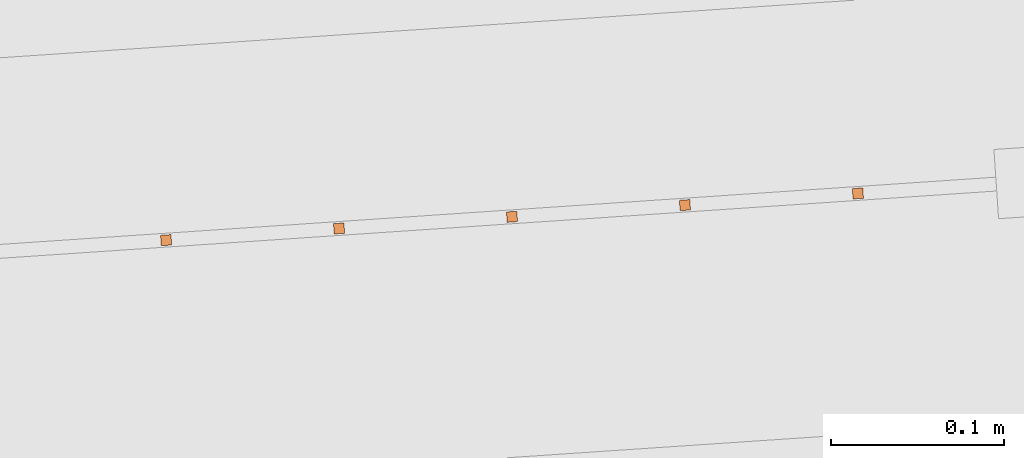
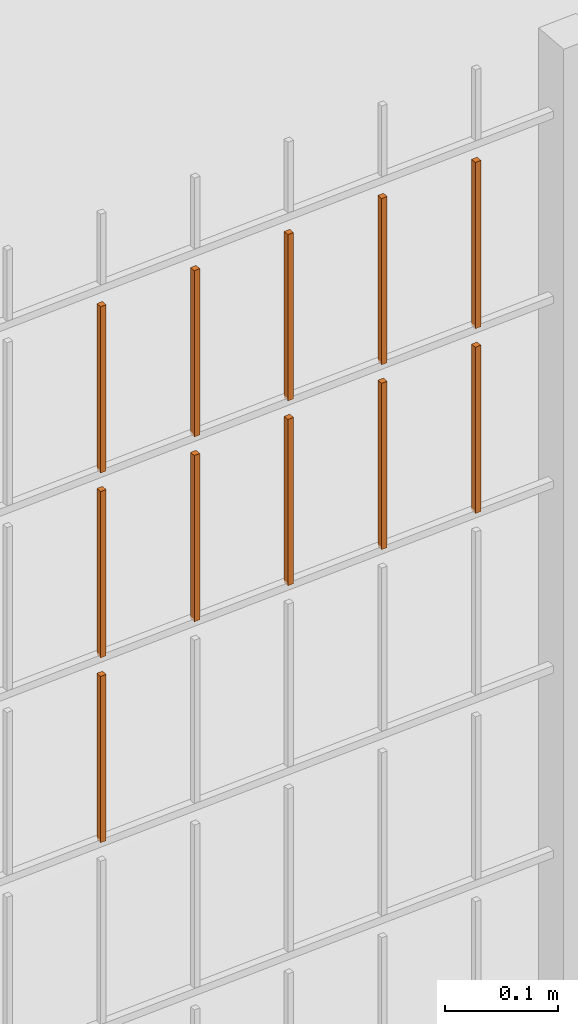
# One storey, part 189 of 1809: 11 proxies, 1 element without a shape of its own.
"""IFC2X3 building model written with IfcOpenShell, lengths in millimetres."""

from ifc_helpers import new_model, entity, si_unit, converted_unit, derived_unit, money_unit, direction, frame, origin_with_axes, place, context, subcontext, project, spatial, faceted_brep, source, transform, mapped, material, type_object, element, aggregate, save


model = new_model("IFC2X3")

# Units and contexts
model_context = context("Model", 3, precision=0.01, world=origin_with_axes(), true_north=direction((0.0, 1.0)))
body_context = subcontext(model_context, "Body", "Model", "MODEL_VIEW")
ifc_project = project(units=[si_unit("LENGTHUNIT", "METRE", prefix="MILLI"), si_unit("AREAUNIT", "SQUARE_METRE"), si_unit("VOLUMEUNIT", "CUBIC_METRE"), converted_unit("PLANEANGLEUNIT", "DEGREE", entity("IfcPlaneAngleMeasure", 0.0174532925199), si_unit("PLANEANGLEUNIT", "RADIAN"), dimensions=[0, 0, 0, 0, 0, 0, 0]), si_unit("SOLIDANGLEUNIT", "STERADIAN"), money_unit("EUR"), converted_unit("TIMEUNIT", "Year", entity("IfcTimeMeasure", 31556926.0), si_unit("TIMEUNIT", "SECOND"), dimensions=[0, 0, 1, 0, 0, 0, 0]), si_unit("MASSUNIT", "GRAM", prefix="KILO"), si_unit("THERMODYNAMICTEMPERATUREUNIT", "DEGREE_CELSIUS"), si_unit("LUMINOUSINTENSITYUNIT", "LUMEN"), si_unit("ENERGYUNIT", "JOULE", prefix="MEGA"), derived_unit("THERMALCONDUCTANCEUNIT", [(si_unit("POWERUNIT", "WATT"), 1), (si_unit("LENGTHUNIT", "METRE"), -1), (si_unit("THERMODYNAMICTEMPERATUREUNIT", "KELVIN"), -1)]), derived_unit("SPECIFICHEATCAPACITYUNIT", [(si_unit("ENERGYUNIT", "JOULE"), 1), (si_unit("MASSUNIT", "GRAM", prefix="KILO"), -1), (si_unit("THERMODYNAMICTEMPERATUREUNIT", "KELVIN"), -1)]), derived_unit("MASSDENSITYUNIT", [(si_unit("MASSUNIT", "GRAM", prefix="KILO"), 1), (si_unit("VOLUMEUNIT", "CUBIC_METRE"), -1)])], contexts=[model_context])

# Site, building, storey
site_placement = place(None, origin_with_axes())
site = spatial("IfcSite", under=ifc_project, at=site_placement, Name="Politse- ja Piirivalveameti ning Päästeameti ühishoone", CompositionType="ELEMENT")
building_placement = place(site_placement, origin_with_axes())
building = spatial("IfcBuilding", under=site, at=building_placement, Name="Politse- ja Piirivalveameti ning Päästeameti ühishoone", CompositionType="ELEMENT")
storey_placement = place(building_placement, origin_with_axes())
storey = spatial("IfcBuildingStorey", under=building, at=storey_placement, Name="Esimene korrus", CompositionType="ELEMENT", Elevation=0.0)

# Proxies
building_element_proxy_type_1 = type_object("IfcBuildingElementProxyType", Name="Railing Type", PredefinedType="NOTDEFINED")
proxy_1_placement = place(storey_placement, frame((89252.001212, -29183.4766571, 203.661247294), z_axis=(0.0, 0.0, 1.0), x_axis=(1.0, 0.0, 0.0)))
proxy_1 = element("IfcBuildingElementProxy", 1, at=proxy_1_placement, inside=storey, type_object=building_element_proxy_type_1, Name="PIIRDEAED")
ifc_material = material(Name="ET-03_Raud")
building_element_proxy_type_2 = type_object("IfcBuildingElementProxyType", Name="IfcBuildingElementProxy", PredefinedType="NOTDEFINED")
shared_shape_1 = source(origin_with_axes(), body_context, "Body", "Brep", [
    faceted_brep([(3.0, 3.0, -0.000752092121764), (-3.0, 3.0, -0.000752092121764), (-3.0, 3.0, 179.99926046), (3.0, 3.0, 179.99926046), (3.0, -3.0, 0.000752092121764), (-3.0, -3.0, 0.000752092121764), (-3.0, -3.0, 180.000764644), (3.0, -3.0, 180.000764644)], [[[0, 1, 2, 3]], [[0, 4, 5, 1]], [[1, 5, 6, 2]], [[3, 2, 6, 7]], [[4, 0, 3, 7]], [[5, 4, 7, 6]]]),
])
proxy_2_placement = place(proxy_1_placement, frame((-70067.0297175, -22030.5381956, 1809.62873926), z_axis=(0.0, 0.0, 1.0), x_axis=(1.0, 0.0, 0.0)))
proxy_2 = element("IfcBuildingElementProxy", 2, at=proxy_2_placement, type_object=building_element_proxy_type_2, material=ifc_material, Name="BALUSTER - 001", context=body_context, shape_type="MappedRepresentation", body=[
    mapped(shared_shape_1, transform((0.0, 0.0, 0.0), x_axis=(-0.0673926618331, 0.997726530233, 0.0), y_axis=(-0.997726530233, -0.0673926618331, 0.0), z_axis=(0.0, 0.0, 1.0))),
])
shared_shape_2 = source(origin_with_axes(), body_context, "Body", "Brep", [
    faceted_brep([(3.0, 3.0, -0.000752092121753), (-3.0, 3.0, -0.000752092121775), (-3.0, 3.0, 179.99926046), (3.0, 3.0, 179.99926046), (3.0, -3.0, 0.000752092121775), (-3.0, -3.0, 0.000752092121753), (-3.0, -3.0, 180.000764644), (3.0, -3.0, 180.000764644)], [[[0, 1, 2, 3]], [[0, 4, 5, 1]], [[1, 5, 6, 2]], [[3, 2, 6, 7]], [[4, 0, 3, 7]], [[5, 4, 7, 6]]]),
])
proxy_3_placement = place(proxy_1_placement, frame((-69767.7117585, -22010.320397, 1809.70394847), z_axis=(0.0, 0.0, 1.0), x_axis=(1.0, 0.0, 0.0)))
proxy_3 = element("IfcBuildingElementProxy", 3, at=proxy_3_placement, type_object=building_element_proxy_type_2, material=ifc_material, Name="BALUSTER - 001", context=body_context, shape_type="MappedRepresentation", body=[
    mapped(shared_shape_2, transform((0.0, 0.0, 0.0), x_axis=(-0.0673926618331, 0.997726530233, 0.0), y_axis=(-0.997726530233, -0.0673926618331, 0.0), z_axis=(0.0, 0.0, 1.0))),
])
shared_shape_3 = source(origin_with_axes(), body_context, "Body", "Brep", [
    faceted_brep([(3.0, 3.0, -0.000752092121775), (-3.0, 3.0, -0.000752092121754), (-3.0, 3.0, 179.99926046), (3.0, 3.0, 179.99926046), (3.0, -3.0, 0.000752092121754), (-3.0, -3.0, 0.000752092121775), (-3.0, -3.0, 180.000764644), (3.0, -3.0, 180.000764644)], [[[0, 1, 2, 3]], [[0, 4, 5, 1]], [[1, 5, 6, 2]], [[3, 2, 6, 7]], [[4, 0, 3, 7]], [[5, 4, 7, 6]]]),
])
proxy_4_placement = place(proxy_1_placement, frame((-70166.8023706, -22037.2774618, 1809.60366952), z_axis=(0.0, 0.0, 1.0), x_axis=(1.0, 0.0, 0.0)))
proxy_4 = element("IfcBuildingElementProxy", 4, at=proxy_4_placement, type_object=building_element_proxy_type_2, material=ifc_material, Name="BALUSTER - 001", context=body_context, shape_type="MappedRepresentation", body=[
    mapped(shared_shape_3, transform((0.0, 0.0, 0.0), x_axis=(-0.0673926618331, 0.997726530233, 0.0), y_axis=(-0.997726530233, -0.0673926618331, 0.0), z_axis=(0.0, 0.0, 1.0))),
])
shared_shape_4 = source(origin_with_axes(), body_context, "Body", "Brep", [
    faceted_brep([(3.0, 3.0, -0.000752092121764), (-3.0, 3.0, -0.000752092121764), (-3.0, 3.0, 179.99926046), (3.0, 3.0, 179.99926046), (3.0, -3.0, 0.000752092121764), (-3.0, -3.0, 0.000752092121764), (-3.0, -3.0, 180.000764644), (3.0, -3.0, 180.000764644)], [[[0, 1, 2, 3]], [[0, 4, 5, 1]], [[1, 5, 6, 2]], [[3, 2, 6, 7]], [[4, 0, 3, 7]], [[5, 4, 7, 6]]]),
])
proxy_5_placement = place(proxy_1_placement, frame((-70067.0297175, -22030.5381956, 1609.62873926), z_axis=(0.0, 0.0, 1.0), x_axis=(1.0, 0.0, 0.0)))
proxy_5 = element("IfcBuildingElementProxy", 5, at=proxy_5_placement, type_object=building_element_proxy_type_2, material=ifc_material, Name="BALUSTER - 001", context=body_context, shape_type="MappedRepresentation", body=[
    mapped(shared_shape_4, transform((0.0, 0.0, 0.0), x_axis=(-0.0673926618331, 0.997726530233, 0.0), y_axis=(-0.997726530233, -0.0673926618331, 0.0), z_axis=(0.0, 0.0, 1.0))),
])
shared_shape_5 = source(origin_with_axes(), body_context, "Body", "Brep", [
    faceted_brep([(3.0, 3.0, -0.000752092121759), (-3.0, 3.0, -0.000752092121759), (-3.0, 3.0, 179.99926046), (3.0, 3.0, 179.99926046), (3.0, -3.0, 0.000752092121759), (-3.0, -3.0, 0.000752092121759), (-3.0, -3.0, 180.000764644), (3.0, -3.0, 180.000764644)], [[[0, 1, 2, 3]], [[0, 4, 5, 1]], [[1, 5, 6, 2]], [[3, 2, 6, 7]], [[4, 0, 3, 7]], [[5, 4, 7, 6]]]),
])
proxy_6_placement = place(proxy_1_placement, frame((-69867.4844115, -22017.0596632, 1609.67887873), z_axis=(0.0, 0.0, 1.0), x_axis=(1.0, 0.0, 0.0)))
proxy_6 = element("IfcBuildingElementProxy", 6, at=proxy_6_placement, type_object=building_element_proxy_type_2, material=ifc_material, Name="BALUSTER - 001", context=body_context, shape_type="MappedRepresentation", body=[
    mapped(shared_shape_5, transform((0.0, 0.0, 0.0), x_axis=(-0.0673926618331, 0.997726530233, 0.0), y_axis=(-0.997726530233, -0.0673926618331, 0.0), z_axis=(0.0, 0.0, 1.0))),
])
shared_shape_6 = source(origin_with_axes(), body_context, "Body", "Brep", [
    faceted_brep([(3.0, 3.0, -0.000752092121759), (-3.0, 3.0, -0.000752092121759), (-3.0, 3.0, 179.99926046), (3.0, 3.0, 179.99926046), (3.0, -3.0, 0.000752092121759), (-3.0, -3.0, 0.000752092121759), (-3.0, -3.0, 180.000764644), (3.0, -3.0, 180.000764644)], [[[0, 1, 2, 3]], [[0, 4, 5, 1]], [[1, 5, 6, 2]], [[3, 2, 6, 7]], [[4, 0, 3, 7]], [[5, 4, 7, 6]]]),
])
proxy_7_placement = place(proxy_1_placement, frame((-69867.4844115, -22017.0596632, 1809.67887873), z_axis=(0.0, 0.0, 1.0), x_axis=(1.0, 0.0, 0.0)))
proxy_7 = element("IfcBuildingElementProxy", 7, at=proxy_7_placement, type_object=building_element_proxy_type_2, material=ifc_material, Name="BALUSTER - 001", context=body_context, shape_type="MappedRepresentation", body=[
    mapped(shared_shape_6, transform((0.0, 0.0, 0.0), x_axis=(-0.0673926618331, 0.997726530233, 0.0), y_axis=(-0.997726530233, -0.0673926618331, 0.0), z_axis=(0.0, 0.0, 1.0))),
])
shared_shape_7 = source(origin_with_axes(), body_context, "Body", "Brep", [
    faceted_brep([(3.0, 3.0, -0.000752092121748), (-3.0, 3.0, -0.00075209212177), (-3.0, 3.0, 179.99926046), (3.0, 3.0, 179.99926046), (3.0, -3.0, 0.00075209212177), (-3.0, -3.0, 0.000752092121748), (-3.0, -3.0, 180.000764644), (3.0, -3.0, 180.000764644)], [[[0, 1, 2, 3]], [[0, 4, 5, 1]], [[1, 5, 6, 2]], [[3, 2, 6, 7]], [[4, 0, 3, 7]], [[5, 4, 7, 6]]]),
])
proxy_8_placement = place(proxy_1_placement, frame((-69967.2570645, -22023.7989294, 1809.65380899), z_axis=(0.0, 0.0, 1.0), x_axis=(1.0, 0.0, 0.0)))
proxy_8 = element("IfcBuildingElementProxy", 8, at=proxy_8_placement, type_object=building_element_proxy_type_2, material=ifc_material, Name="BALUSTER - 001", context=body_context, shape_type="MappedRepresentation", body=[
    mapped(shared_shape_7, transform((0.0, 0.0, 0.0), x_axis=(-0.0673926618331, 0.997726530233, 0.0), y_axis=(-0.997726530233, -0.0673926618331, 0.0), z_axis=(0.0, 0.0, 1.0))),
])
shared_shape_8 = source(origin_with_axes(), body_context, "Body", "Brep", [
    faceted_brep([(3.0, 3.0, -0.000752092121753), (-3.0, 3.0, -0.000752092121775), (-3.0, 3.0, 179.99926046), (3.0, 3.0, 179.99926046), (3.0, -3.0, 0.000752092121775), (-3.0, -3.0, 0.000752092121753), (-3.0, -3.0, 180.000764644), (3.0, -3.0, 180.000764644)], [[[0, 1, 2, 3]], [[0, 4, 5, 1]], [[1, 5, 6, 2]], [[3, 2, 6, 7]], [[4, 0, 3, 7]], [[5, 4, 7, 6]]]),
])
proxy_9_placement = place(proxy_1_placement, frame((-69767.7117585, -22010.320397, 1609.70394847), z_axis=(0.0, 0.0, 1.0), x_axis=(1.0, 0.0, 0.0)))
proxy_9 = element("IfcBuildingElementProxy", 9, at=proxy_9_placement, type_object=building_element_proxy_type_2, material=ifc_material, Name="BALUSTER - 001", context=body_context, shape_type="MappedRepresentation", body=[
    mapped(shared_shape_8, transform((0.0, 0.0, 0.0), x_axis=(-0.0673926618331, 0.997726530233, 0.0), y_axis=(-0.997726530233, -0.0673926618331, 0.0), z_axis=(0.0, 0.0, 1.0))),
])
shared_shape_9 = source(origin_with_axes(), body_context, "Body", "Brep", [
    faceted_brep([(3.0, 3.0, -0.000752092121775), (-3.0, 3.0, -0.000752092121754), (-3.0, 3.0, 179.99926046), (3.0, 3.0, 179.99926046), (3.0, -3.0, 0.000752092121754), (-3.0, -3.0, 0.000752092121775), (-3.0, -3.0, 180.000764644), (3.0, -3.0, 180.000764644)], [[[0, 1, 2, 3]], [[0, 4, 5, 1]], [[1, 5, 6, 2]], [[3, 2, 6, 7]], [[4, 0, 3, 7]], [[5, 4, 7, 6]]]),
])
proxy_10_placement = place(proxy_1_placement, frame((-70166.8023706, -22037.2774618, 1409.60366952), z_axis=(0.0, 0.0, 1.0), x_axis=(1.0, 0.0, 0.0)))
proxy_10 = element("IfcBuildingElementProxy", 10, at=proxy_10_placement, type_object=building_element_proxy_type_2, material=ifc_material, Name="BALUSTER - 001", context=body_context, shape_type="MappedRepresentation", body=[
    mapped(shared_shape_9, transform((0.0, 0.0, 0.0), x_axis=(-0.0673926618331, 0.997726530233, 0.0), y_axis=(-0.997726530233, -0.0673926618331, 0.0), z_axis=(0.0, 0.0, 1.0))),
])
proxy_11_placement = place(proxy_1_placement, frame((-70166.8023706, -22037.2774618, 1609.60366952), z_axis=(0.0, 0.0, 1.0), x_axis=(1.0, 0.0, 0.0)))
proxy_11 = element("IfcBuildingElementProxy", 11, at=proxy_11_placement, type_object=building_element_proxy_type_2, material=ifc_material, Name="BALUSTER - 001", context=body_context, shape_type="MappedRepresentation", body=[
    mapped(shared_shape_9, transform((0.0, 0.0, 0.0), x_axis=(-0.0673926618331, 0.997726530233, 0.0), y_axis=(-0.997726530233, -0.0673926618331, 0.0), z_axis=(0.0, 0.0, 1.0))),
])
shared_shape_10 = source(origin_with_axes(), body_context, "Body", "Brep", [
    faceted_brep([(3.0, 3.0, -0.000752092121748), (-3.0, 3.0, -0.00075209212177), (-3.0, 3.0, 179.99926046), (3.0, 3.0, 179.99926046), (3.0, -3.0, 0.00075209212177), (-3.0, -3.0, 0.000752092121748), (-3.0, -3.0, 180.000764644), (3.0, -3.0, 180.000764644)], [[[0, 1, 2, 3]], [[0, 4, 5, 1]], [[1, 5, 6, 2]], [[3, 2, 6, 7]], [[4, 0, 3, 7]], [[5, 4, 7, 6]]]),
])
proxy_12_placement = place(proxy_1_placement, frame((-69967.2570645, -22023.7989294, 1609.65380899), z_axis=(0.0, 0.0, 1.0), x_axis=(1.0, 0.0, 0.0)))
proxy_12 = element("IfcBuildingElementProxy", 12, at=proxy_12_placement, type_object=building_element_proxy_type_2, material=ifc_material, Name="BALUSTER - 001", context=body_context, shape_type="MappedRepresentation", body=[
    mapped(shared_shape_10, transform((0.0, 0.0, 0.0), x_axis=(-0.0673926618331, 0.997726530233, 0.0), y_axis=(-0.997726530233, -0.0673926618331, 0.0), z_axis=(0.0, 0.0, 1.0))),
])
aggregate(proxy_1, [proxy_10, proxy_9, proxy_6, proxy_12, proxy_5, proxy_11, proxy_3, proxy_7, proxy_8, proxy_2, proxy_4])

save(model, "model.ifc")
